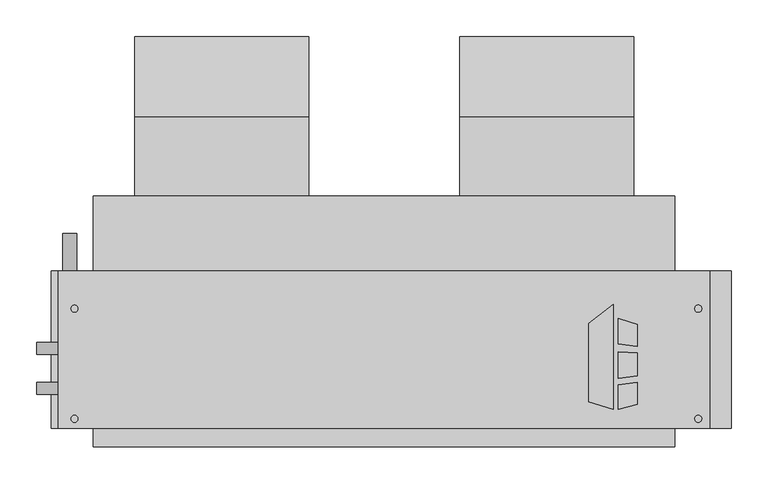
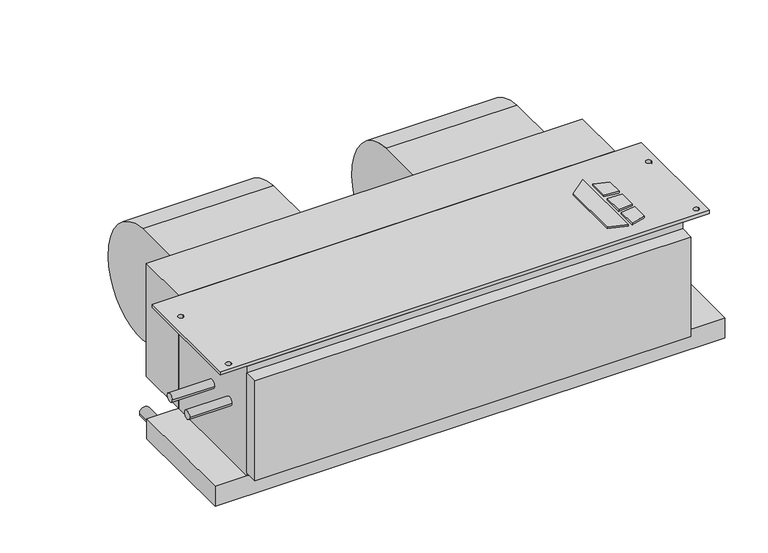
"""IFC4 building model written with IfcOpenShell, lengths in millimetres: proxy geometry, Concealed_Horizontal_Fan_Coil_Unit_-_CHY_-_IEC_-_2-Pipe_Cool-EHeat_LH_2022 : Size 06 - 277v/60Hz/1Ph - 4 Row 6.0kW."""

import ifcopenshell
import ifcopenshell.guid

model = None  # the IFC model being written
_history = None  # IfcOwnerHistory: only IFC2X3 demands one
_inside = {}  # id of a spatial element -> (the spatial element, [elements in it])
_under = {}  # id of a project, library or spatial element -> (it, [spatial elements below it])
_declared = {}  # id of a project -> (the project, [libraries it declares])
_typed = {}  # id of a type object -> (the type object, [elements of that type])
_made_of = {}  # id of a material, layer set ... -> (it, [elements and type objects made of it])


def new_model(schema):
    """Start an empty IFC model of exactly this schema.

    Asked for "IFC4X3", IfcOpenShell would pick the latest addendum, in which some entities
    have other attributes; the version numbers below select the first issue.
    IFC2X3 requires an IfcOwnerHistory on every rooted entity: one is made here for all.
    """
    global model, _history
    if schema == "IFC4X3":
        model = ifcopenshell.file(schema_version=(4, 3, 0, 0))
    else:
        model = ifcopenshell.file(schema=schema)
    _inside.clear()
    _under.clear()
    _declared.clear()
    _typed.clear()
    _made_of.clear()
    _history = None
    if model.schema == "IFC2X3":
        org = make("IfcOrganization", Name="unknown")
        user = make(
            "IfcPersonAndOrganization",
            ThePerson=make("IfcPerson", FamilyName="unknown"),
            TheOrganization=org,
        )
        app = make(
            "IfcApplication",
            ApplicationDeveloper=org,
            Version="unknown",
            ApplicationFullName="unknown",
            ApplicationIdentifier="unknown",
        )
        _history = make(
            "IfcOwnerHistory",
            OwningUser=user,
            OwningApplication=app,
            ChangeAction="ADDED",
            CreationDate=0,
        )
    return model


def make(cls, **values):
    """One entity of the class cls with the attributes given. An attribute that is None is left unset."""
    return model.create_entity(
        cls, **{name: value for name, value in values.items() if value is not None}
    )


def rooted(cls, **values):
    """An entity with a GlobalId (a new one), such as an element, a storey or a relation."""
    return make(cls, GlobalId=ifcopenshell.guid.new(), OwnerHistory=_history, **values)


def si_unit(unit_type, name, prefix=None):
    """IfcSIUnit, for example si_unit("LENGTHUNIT", "METRE", prefix="MILLI")."""
    return make("IfcSIUnit", UnitType=unit_type, Prefix=prefix, Name=name)


def assignment(units):
    """IfcUnitAssignment: the units of a project."""
    return None if units is None else make("IfcUnitAssignment", Units=units)


def point(xyz):
    """IfcCartesianPoint."""
    return None if xyz is None else make("IfcCartesianPoint", Coordinates=xyz)


def direction(xyz):
    """IfcDirection."""
    return None if xyz is None else make("IfcDirection", DirectionRatios=xyz)


def frame(location, z_axis=None, x_axis=None):
    """IfcAxis2Placement3D, a coordinate frame: its origin and axes. An axis left out is left unset."""
    return make(
        "IfcAxis2Placement3D",
        Location=point(location),
        Axis=direction(z_axis),
        RefDirection=direction(x_axis),
    )


def frame_2d(location, x_axis=None):
    """IfcAxis2Placement2D, a coordinate frame in the plane: its origin and x axis."""
    return make(
        "IfcAxis2Placement2D", Location=point(location), RefDirection=direction(x_axis)
    )


def origin():
    """The frame at (0, 0, 0) with its axes left unset."""
    return frame((0.0, 0.0, 0.0))


def origin_with_axes():
    """The frame at (0, 0, 0) with the z axis (0, 0, 1) and the x axis (1, 0, 0) written out."""
    return frame((0.0, 0.0, 0.0), z_axis=(0.0, 0.0, 1.0), x_axis=(1.0, 0.0, 0.0))


def place(relative_to, where):
    """IfcLocalPlacement: puts the frame where relative to a parent placement (None: the world)."""
    return make(
        "IfcLocalPlacement", PlacementRelTo=relative_to, RelativePlacement=where
    )


def context(
    kind, dimensions, precision=None, world=None, true_north=None, identifier=None
):
    """IfcGeometricRepresentationContext, for example the 3D "Model" context."""
    return make(
        "IfcGeometricRepresentationContext",
        ContextIdentifier=identifier,
        ContextType=kind,
        CoordinateSpaceDimension=dimensions,
        Precision=precision,
        WorldCoordinateSystem=world,
        TrueNorth=true_north,
    )


def project(units=None, contexts=None):
    """IfcProject with its units and contexts."""
    return rooted(
        "IfcProject",
        Name="project",
        RepresentationContexts=contexts,
        UnitsInContext=assignment(units),
    )


def spatial(cls, under=None, at=None, **own):
    """A site, building, storey or space (cls), placed at a placement, below another one or the project."""
    s = rooted(cls, ObjectPlacement=at, **own)
    if under is not None:
        _under.setdefault(under.id(), (under, []))[1].append(s)
    return s


def polyline(points):
    """IfcPolyline through the points."""
    return make("IfcPolyline", Points=[point(p) for p in points])


def circle_curve(where, radius):
    """IfcCircle in the frame where."""
    return make("IfcCircle", Position=where, Radius=radius)


def trimmed(basis, trim1, trim2, sense, master):
    """IfcTrimmedCurve: the piece of a basis curve between two trims."""
    return make(
        "IfcTrimmedCurve",
        BasisCurve=basis,
        Trim1=trim1,
        Trim2=trim2,
        SenseAgreement=sense,
        MasterRepresentation=master,
    )


def segment(curve, same_sense, transition):
    """IfcCompositeCurveSegment."""
    return make(
        "IfcCompositeCurveSegment",
        Transition=transition,
        SameSense=same_sense,
        ParentCurve=curve,
    )


def composite_curve(segments, self_intersect=None):
    """IfcCompositeCurve: segments joined end to end."""
    return make("IfcCompositeCurve", Segments=segments, SelfIntersect=self_intersect)


def outline(outer, holes=None, kind="AREA"):
    """IfcArbitraryClosedProfileDef: a profile drawn as a closed curve; with holes, ...WithVoids."""
    if holes is None:
        return make("IfcArbitraryClosedProfileDef", ProfileType=kind, OuterCurve=outer)
    return make(
        "IfcArbitraryProfileDefWithVoids",
        ProfileType=kind,
        OuterCurve=outer,
        InnerCurves=holes,
    )


def extrude(swept, where, along, depth):
    """IfcExtrudedAreaSolid: the profile swept, set in the frame where, extruded along a direction by depth."""
    return make(
        "IfcExtrudedAreaSolid",
        SweptArea=swept,
        Position=where,
        ExtrudedDirection=direction(along),
        Depth=depth,
    )


def shape(context_of_items, identifier, shape_type, items):
    """IfcShapeRepresentation: the items that make up one representation, for example the "Body"."""
    return make(
        "IfcShapeRepresentation",
        ContextOfItems=context_of_items,
        RepresentationIdentifier=identifier,
        RepresentationType=shape_type,
        Items=items,
    )


def source(mapping_origin, context_of_items, identifier, shape_type, items):
    """IfcRepresentationMap: a shape defined once, which mapped items show again and again."""
    return make(
        "IfcRepresentationMap",
        MappingOrigin=mapping_origin,
        MappedRepresentation=shape(context_of_items, identifier, shape_type, items),
    )


def transform(
    local_origin,
    x_axis=None,
    y_axis=None,
    z_axis=None,
    scale=None,
    scale2=None,
    scale3=None,
    uniform=True,
):
    """IfcCartesianTransformationOperator3D, or its non-uniform kind. x_axis, y_axis, z_axis: its Axis1, 2, 3."""
    if uniform:
        return make(
            "IfcCartesianTransformationOperator3D",
            Axis1=direction(x_axis),
            Axis2=direction(y_axis),
            LocalOrigin=point(local_origin),
            Scale=scale,
            Axis3=direction(z_axis),
        )
    return make(
        "IfcCartesianTransformationOperator3DnonUniform",
        Axis1=direction(x_axis),
        Axis2=direction(y_axis),
        LocalOrigin=point(local_origin),
        Scale=scale,
        Axis3=direction(z_axis),
        Scale2=scale2,
        Scale3=scale3,
    )


def mapped(mapping_source, mapping_target):
    """IfcMappedItem: shows the shape of a source again, moved by a transform."""
    return make(
        "IfcMappedItem", MappingSource=mapping_source, MappingTarget=mapping_target
    )


def made_of(thing, what):
    """Note that an element or type object is made of a material, layer set ...; save() writes the relation."""
    if what is not None:
        _made_of.setdefault(what.id(), (what, []))[1].append(thing)
    return thing


def element(
    cls,
    number,
    at=None,
    inside=None,
    cuts=None,
    type_object=None,
    material=None,
    context=None,
    identifier="Body",
    shape_type=None,
    held_by="IfcProductDefinitionShape",
    body=None,
    shapes=None,
    **own,
):
    """One element of the class cls, such as IfcWall. Its Tag is "e" and its number.

    at: its placement. inside: the storey or other place that contains it. cuts: it is an
    opening in that element (IfcRelVoidsElement). A single representation is given by context,
    identifier, shape_type and body (its items); several are given by shapes. held_by: the class
    of the entity that holds the representations. save() writes the other relations.
    """
    e = rooted(cls, Tag="e%d" % number, ObjectPlacement=at, **own)
    if body is not None:
        shapes = [shape(context, identifier, shape_type, body)]
    if shapes is not None:
        e.Representation = make(held_by, Representations=shapes)
    if inside is not None:
        _inside.setdefault(inside.id(), (inside, []))[1].append(e)
    if cuts is not None:
        rooted(
            "IfcRelVoidsElement", RelatingBuildingElement=cuts, RelatedOpeningElement=e
        )
    if type_object is not None:
        _typed.setdefault(type_object.id(), (type_object, []))[1].append(e)
    return made_of(e, material)


def aggregate(whole, parts):
    """IfcRelAggregates: a whole, such as a stair, and the parts it consists of."""
    return rooted("IfcRelAggregates", RelatingObject=whole, RelatedObjects=parts)


def save(model, path):
    """Write the relations noted so far, then the file.

    IfcRelAggregates (storeys below a building ...), IfcRelContainedInSpatialStructure (elements
    in a storey), IfcRelDefinesByType, IfcRelAssociatesMaterial and IfcRelDeclares: one each for
    every whole, place, type object, material and project.
    """
    for whole, parts in _under.values():
        aggregate(whole, parts)
    for where, things in _inside.values():
        rooted(
            "IfcRelContainedInSpatialStructure",
            RelatedElements=things,
            RelatingStructure=where,
        )
    for kind, things in _typed.values():
        rooted("IfcRelDefinesByType", RelatedObjects=things, RelatingType=kind)
    for what, things in _made_of.values():
        rooted("IfcRelAssociatesMaterial", RelatedObjects=things, RelatingMaterial=what)
    for by, libraries in _declared.values():
        rooted("IfcRelDeclares", RelatingContext=by, RelatedDefinitions=libraries)
    model.write(path)


def mechanical_equipment_f03ada10(model_context):
    return source(origin(), model_context, "Body", "SweptSolid", [
        extrude(outline(polyline([(429.9019761, -202.5703476), (462.4602728, -177.1330184), (462.4602728, -319.0875), (429.9019761, -308.8679201), (429.9019761, -202.5703476)])), origin_with_axes(), (0.0, 0.0, 1.0), 3.175),
        extrude(outline(polyline([(469.2186058, -230.442352), (469.2186058, -195.9624379), (495.3, -204.1490115), (495.3, -233.6447446), (469.2186058, -230.442352)])), origin_with_axes(), (0.0, 0.0, 1.0), 3.175),
        extrude(outline(polyline([(495.3, -312.0990115), (469.2186058, -319.0875), (469.2186058, -285.8661996), (495.3, -282.3243564), (495.3, -312.0990115)])), origin_with_axes(), (0.0, 0.0, 1.0), 3.175),
        extrude(outline(polyline([(495.3, -242.7263277), (495.3, -273.976483), (469.2186058, -276.717748), (469.2186058, -240.8600378), (495.3, -242.7263277)])), origin_with_axes(), (0.0, 0.0, 1.0), 3.175),
        extrude(outline(composite_curve([segment(trimmed(circle_curve(frame_2d((68.401169, -136.0299844)), 117.3559541), [point((77.7875, -19.05))], [point((185.7375, -138.176))], False, "CARTESIAN"), True, "CONTINUOUS"), segment(trimmed(circle_curve(frame_2d((90.0022663, -136.4250563)), 95.7512443), [point((185.7375, -138.176))], [point((77.7875, -231.394))], False, "CARTESIAN"), True, "CONTINUOUS"), segment(trimmed(circle_curve(frame_2d((89.9711869, -136.6666968)), 95.5076133), [point((77.7875, -231.394))], [point((-5.5245, -138.176))], False, "CARTESIAN"), True, "CONTINUOUS"), segment(trimmed(circle_curve(frame_2d((-24.6059828, -138.4775816)), 19.0838659), [point((-5.5245, -138.176))], [point((-17.7963373, -120.65))], True, "CARTESIAN"), True, "CONTINUOUS"), segment(polyline([(-17.7963373, -120.65), (-30.1625, -120.65), (-30.1625, -19.05), (77.7875, -19.05)]), True, "CONTINUOUS")], self_intersect=False)), frame((254.8255, 0.0, 0.0), z_axis=(1.0, 0.0, 0.0), x_axis=(0.0, 1.0, 0.0)), (0.0, 0.0, 1.0), 235.712),
        extrude(outline(composite_curve([segment(trimmed(circle_curve(frame_2d((68.401169, -136.0299844)), 117.3559541), [point((77.7875, -19.05))], [point((185.7375, -138.176))], False, "CARTESIAN"), True, "CONTINUOUS"), segment(trimmed(circle_curve(frame_2d((90.0022663, -136.4250563)), 95.7512443), [point((185.7375, -138.176))], [point((77.7875, -231.394))], False, "CARTESIAN"), True, "CONTINUOUS"), segment(trimmed(circle_curve(frame_2d((89.9711869, -136.6666968)), 95.5076133), [point((77.7875, -231.394))], [point((-5.5245, -138.176))], False, "CARTESIAN"), True, "CONTINUOUS"), segment(trimmed(circle_curve(frame_2d((-24.6059828, -138.4775816)), 19.0838659), [point((-5.5245, -138.176))], [point((-17.7963373, -120.65))], True, "CARTESIAN"), True, "CONTINUOUS"), segment(polyline([(-17.7963373, -120.65), (-30.1625, -120.65), (-30.1625, -19.05), (77.7875, -19.05)]), True, "CONTINUOUS")], self_intersect=False)), frame((-184.912, 0.0, 0.0), z_axis=(1.0, 0.0, 0.0), x_axis=(0.0, 1.0, 0.0)), (0.0, 0.0, 1.0), 235.712),
        extrude(outline(polyline([(593.725, -131.7625), (593.725, -344.4875), (-288.925, -344.4875), (-288.925, -131.7625), (593.725, -131.7625)]), holes=[composite_curve([segment(trimmed(circle_curve(frame_2d((-266.7, -182.5625)), 4.7625), [point((-271.4625, -182.5625))], [point((-261.9375, -182.5625))], True, "CARTESIAN"), True, "CONTINUOUS"), segment(trimmed(circle_curve(frame_2d((-266.7, -182.5625)), 4.7625), [point((-261.9375, -182.5625))], [point((-271.4625, -182.5625))], True, "CARTESIAN"), True, "CONTINUOUS")], self_intersect=False), composite_curve([segment(trimmed(circle_curve(frame_2d((-266.7, -331.7875)), 4.7625), [point((-271.4625, -331.7875))], [point((-261.9375, -331.7875))], True, "CARTESIAN"), True, "CONTINUOUS"), segment(trimmed(circle_curve(frame_2d((-266.7, -331.7875)), 4.7625), [point((-261.9375, -331.7875))], [point((-271.4625, -331.7875))], True, "CARTESIAN"), True, "CONTINUOUS")], self_intersect=False), composite_curve([segment(trimmed(circle_curve(frame_2d((577.85, -182.5625)), 4.7625), [point((573.0875, -182.5625))], [point((582.6125, -182.5625))], True, "CARTESIAN"), True, "CONTINUOUS"), segment(trimmed(circle_curve(frame_2d((577.85, -182.5625)), 4.7625), [point((582.6125, -182.5625))], [point((573.0875, -182.5625))], True, "CARTESIAN"), True, "CONTINUOUS")], self_intersect=False), composite_curve([segment(trimmed(circle_curve(frame_2d((577.85, -331.7875)), 4.7625), [point((573.0875, -331.7875))], [point((582.6125, -331.7875))], True, "CARTESIAN"), True, "CONTINUOUS"), segment(trimmed(circle_curve(frame_2d((577.85, -331.7875)), 4.7625), [point((582.6125, -331.7875))], [point((573.0875, -331.7875))], True, "CARTESIAN"), True, "CONTINUOUS")], self_intersect=False)]), frame((0.0, 0.0, -6.35), z_axis=(0.0, 0.0, 1.0), x_axis=(1.0, 0.0, 0.0)), (0.0, 0.0, 1.0), 6.35),
        extrude(outline(polyline([(-241.3, -30.1625), (546.1, -30.1625), (546.1, -131.7625), (-241.3, -131.7625), (-241.3, -30.1625)])), frame((0.0, 0.0, -215.9), z_axis=(0.0, 0.0, 1.0), x_axis=(1.0, 0.0, 0.0)), (0.0, 0.0, 1.0), 215.9),
        extrude(outline(composite_curve([segment(trimmed(circle_curve(frame_2d((-241.3, -273.05)), 9.525), [point((-241.3, -282.575))], [point((-241.3, -263.525))], False, "CARTESIAN"), True, "CONTINUOUS"), segment(trimmed(circle_curve(frame_2d((-241.3, -273.05)), 9.525), [point((-241.3, -263.525))], [point((-241.3, -282.575))], False, "CARTESIAN"), True, "CONTINUOUS")], self_intersect=False)), frame((0.0, -131.7625, 0.0), z_axis=(0.0, 1.0, 0.0), x_axis=(0.0, 0.0, 1.0)), (0.0, 0.0, 1.0), 50.8),
        extrude(outline(polyline([(546.1, -369.8875), (-241.3, -369.8875), (-241.3, -344.4875), (546.1, -344.4875), (546.1, -369.8875)])), frame((0.0, 0.0, -209.55), z_axis=(0.0, 0.0, 1.0), x_axis=(1.0, 0.0, 0.0)), (0.0, 0.0, 1.0), 190.5),
        extrude(outline(polyline([(622.3, -131.7625), (622.3, -344.4875), (-298.45, -344.4875), (-298.45, -131.7625), (622.3, -131.7625)])), frame((0.0, 0.0, -254.0), z_axis=(0.0, 0.0, 1.0), x_axis=(1.0, 0.0, 0.0)), (0.0, 0.0, 1.0), 38.1),
        extrude(outline(composite_curve([segment(trimmed(circle_curve(frame_2d((-290.5125, -104.775)), 7.9375), [point((-282.575, -104.775))], [point((-298.45, -104.775))], False, "CARTESIAN"), True, "CONTINUOUS"), segment(trimmed(circle_curve(frame_2d((-290.5125, -104.775)), 7.9375), [point((-298.45, -104.775))], [point((-282.575, -104.775))], False, "CARTESIAN"), True, "CONTINUOUS")], self_intersect=False)), frame((-317.5, 0.0, 0.0), z_axis=(1.0, 0.0, 0.0), x_axis=(0.0, 1.0, 0.0)), (0.0, 0.0, 1.0), 76.2),
        extrude(outline(composite_curve([segment(trimmed(circle_curve(frame_2d((-236.5375, -104.775)), 7.9375), [point((-228.6, -104.775))], [point((-244.475, -104.775))], False, "CARTESIAN"), True, "CONTINUOUS"), segment(trimmed(circle_curve(frame_2d((-236.5375, -104.775)), 7.9375), [point((-244.475, -104.775))], [point((-228.6, -104.775))], False, "CARTESIAN"), True, "CONTINUOUS")], self_intersect=False)), frame((-317.5, 0.0, 0.0), z_axis=(1.0, 0.0, 0.0), x_axis=(0.0, 1.0, 0.0)), (0.0, 0.0, 1.0), 76.2),
        extrude(outline(polyline([(546.1, -344.4875), (-241.3, -344.4875), (-241.3, -131.7625), (546.1, -131.7625), (546.1, -344.4875)])), frame((0.0, 0.0, -215.9), z_axis=(0.0, 0.0, 1.0), x_axis=(1.0, 0.0, 0.0)), (0.0, 0.0, 1.0), 209.55),
    ])


if __name__ == "__main__":
    model = new_model("IFC4")
    model_context = context("Model", 3, world=origin())
    ifc_project = project(units=[si_unit("LENGTHUNIT", "METRE", prefix="MILLI")], contexts=[model_context])
    site = spatial("IfcSite", under=ifc_project)
    building = spatial("IfcBuilding", under=site)
    placement = place(None, origin())
    mechanical_equipment_shape = mechanical_equipment_f03ada10(model_context)
    element("IfcBuildingElementProxy", 1, Name="Concealed_Horizontal_Fan_Coil_Unit_-_CHY_-_IEC_-_2-Pipe_Cool-EHeat_LH_2022 : Size 06 - 277v/60Hz/1Ph - 4 Row 6.0kW", ObjectType="Concealed_Horizontal_Fan_Coil_Unit_-_CHY_-_IEC_-_2-Pipe_Cool-EHeat_LH_2022 : Size 06 - 277v/60Hz/1Ph - 4 Row 6.0kW", at=placement, inside=building, context=model_context, shape_type="MappedRepresentation", body=[
        mapped(mechanical_equipment_shape, transform((0.0, 0.0, 0.0), x_axis=(1.0, 0.0, 0.0), y_axis=(0.0, 1.0, 0.0), z_axis=(0.0, 0.0, 1.0))),
    ])
    save(model, "model.ifc")
